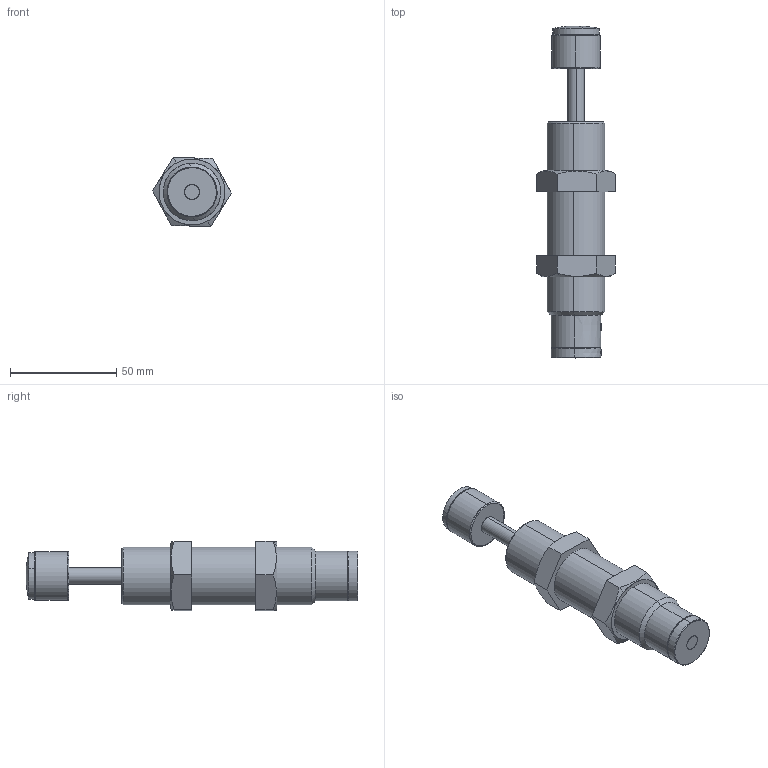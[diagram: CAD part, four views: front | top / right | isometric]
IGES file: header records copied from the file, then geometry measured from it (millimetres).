
Start section: SolidWorks IGES file using analytic representation for surfaces
Bounding box: 36.94 x 156 x 32.48 mm (x, y, z)
Surface area: 18193.9 mm2 (no closed solid volume)
Topology: 0 solids, 0 shells, 99 faces, 1691 edges, 1690 vertices
Faces by surface type: revolution 54, bspline 45
